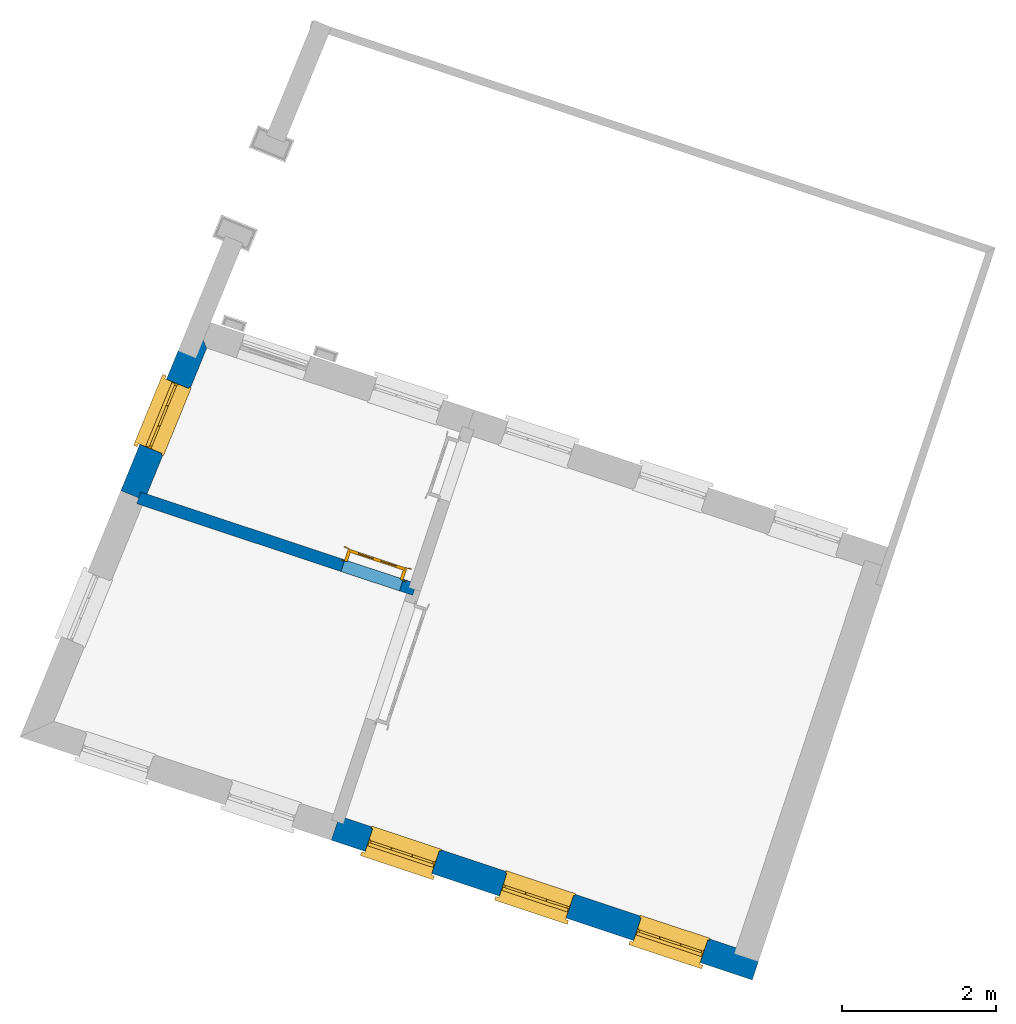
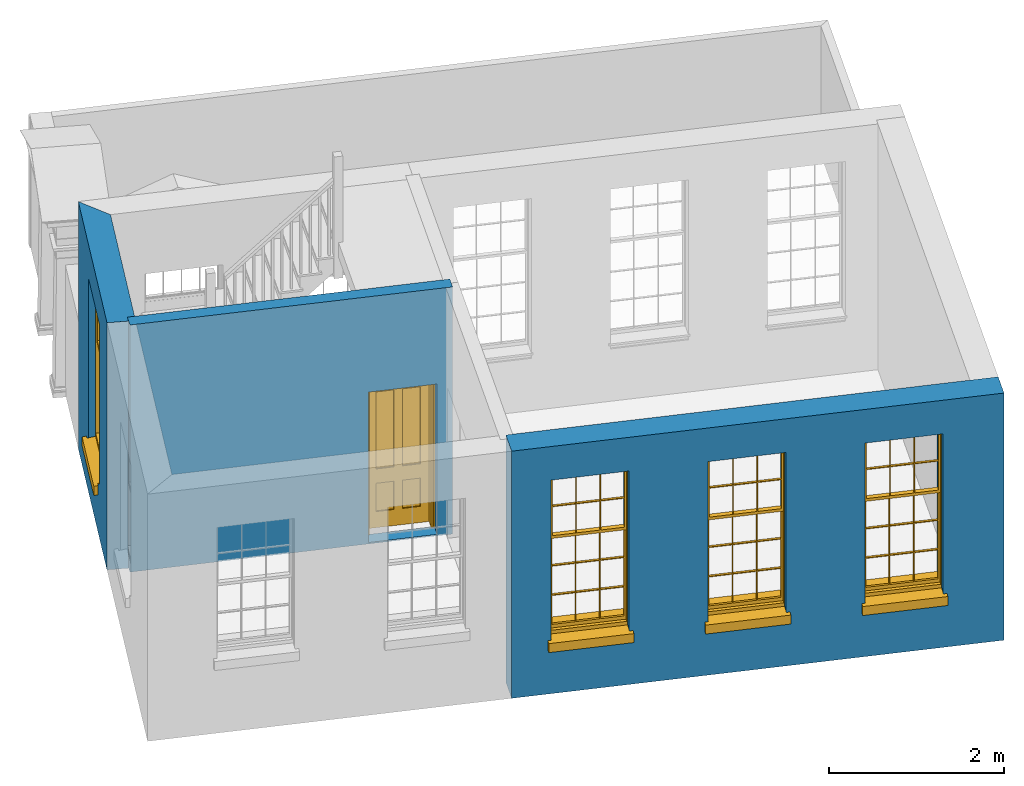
# One storey, part 3 of 6: 4 windows, 3 walls, 1 door, 5 openings.
"""IFC4 building model written with IfcOpenShell, lengths in metres."""

from ifc_helpers import new_model, si_unit, frame, origin, origin_with_axes, place, context, subcontext, project, spatial, polyline, outline, extrude, faceted_brep, source, transform, mapped, material, layer, layer_set, layer_usage, type_object, type_shapes, element, fill, save


model = new_model("IFC4")

# Units and contexts
model_context = context("Model", 3, world=origin_with_axes())
body_context = subcontext(model_context, "Body", "Model", "MODEL_VIEW")
ifc_project = project(units=[si_unit("PLANEANGLEUNIT", "RADIAN"), si_unit("MASSUNIT", "GRAM", prefix="KILO"), si_unit("FORCEUNIT", "NEWTON", prefix="KILO"), si_unit("LENGTHUNIT", "METRE"), si_unit("AREAUNIT", "SQUARE_METRE"), si_unit("VOLUMEUNIT", "CUBIC_METRE")], contexts=[model_context, model_context])

# Sites, building, storey
site_1_placement = place(None, origin_with_axes())
site_1 = spatial("IfcSite", under=ifc_project, at=site_1_placement, Name="Tamar")
site_2_placement = place(site_1_placement, origin_with_axes())
site_2 = spatial("IfcSite", under=site_1, at=site_2_placement, Name="Site plot-16", CompositionType="ELEMENT")
building_placement = place(None, origin_with_axes())
building = spatial("IfcBuilding", under=site_2, at=building_placement, Name="Building plot-16", CompositionType="ELEMENT")
storey_placement = place(None, frame((0.0, 0.0, 26.0), z_axis=(0.0, 0.0, 1.0), x_axis=(1.0, 0.0, 0.0)))
storey = spatial("IfcBuildingStorey", under=building, at=storey_placement, Name="plot-16 0", CompositionType="ELEMENT", Elevation=26.0)

# Wall, opening, window
ifc_material_1 = material(Name="Masonry")
ifc_layer_1 = layer(ifc_material_1, 0.33, ventilated=False)
ifc_layer_set_1 = layer_set([ifc_layer_1], Name="exterior_0.08_0.25")
ifc_layer_usage_1 = layer_usage(ifc_layer_set_1, "AXIS2", "POSITIVE", -0.25)
wall_type_1 = type_object("IfcWallType", Name="exterior_0.08_0.25", PredefinedType="SOLIDWALL", material=ifc_layer_set_1)
wall_1_placement = place(storey_placement, frame((254.578995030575, 299.695267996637, 0.0), z_axis=(0.0, 0.0, 1.0), x_axis=(-0.378975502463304, -0.925406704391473, 0.0)))
wall_1 = element("IfcWall", 1, at=wall_1_placement, inside=storey, type_object=wall_type_1, material=ifc_layer_usage_1, Name="exterior", context=body_context, shape_type="SweptSolid", body=[
    extrude(outline(polyline([(0.0747225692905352, 0.0799999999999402), (-0.233508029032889, -0.250000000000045), (2.20575970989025, -0.25), (2.20575970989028, 0.0800000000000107), (0.0747225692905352, 0.0799999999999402)])), origin_with_axes(), (0.0, 0.0, 1.0), 3.45),
])
opening_1_placement = place(wall_1_placement, frame((0.647879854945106, 0.0, 0.75)))
opening_1 = element("IfcOpeningElement", 2, at=opening_1_placement, cuts=wall_1, Name="My Opening", ObjectType="Opening", context=body_context, shape_type="SweptSolid", body=[
    extrude(outline(polyline([(0.0, -0.270000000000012), (0.91000000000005, -0.27000000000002), (0.910000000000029, 1.09999999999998), (-2.1538326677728e-14, 1.09999999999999), (0.0, -0.270000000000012)])), origin_with_axes(), (0.0, 0.0, 1.0), 2.23),
])
window_type = type_object("IfcWindowType", Name="sash_big_taller", PartitioningType="DOUBLE_PANEL_HORIZONTAL", PredefinedType="NOTDEFINED")
shared_shape_1 = source(origin(), body_context, "Body", "Brep", [
    faceted_brep([(0.033125, 0.145, 1.385209), (0.01, 0.145, 1.385209), (0.033125, 0.145, 1.786042), (0.876875, 0.145, 1.385209), (0.876875, 0.145, 1.786042), (0.9, 0.145, 1.385209), (0.876875, 0.145, 1.796042), (0.876875, 0.145, 2.196875), (0.9, 0.145, 2.22), (0.033125, 0.145, 2.196875), (0.033125, 0.145, 1.796042), (0.01, 0.145, 2.22), (0.876875, 0.115, 1.786042), (0.876875, 0.115, 1.385209), (0.9, 0.115, 1.347084), (0.033125, 0.115, 2.196875), (0.01, 0.115, 2.22), (0.033125, 0.115, 1.796042), (0.01, 0.115, 1.347084), (0.033125, 0.115, 1.385209), (0.033125, 0.115, 1.786042), (0.876875, 0.115, 2.196875), (0.876875, 0.115, 1.796042), (0.9, 0.115, 2.22), (0.033125, 0.145, 1.347084), (0.01, 0.145, 1.347084), (0.033125, 0.145, 0.94625), (0.876875, 0.145, 1.347084), (0.876875, 0.145, 0.94625), (0.9, 0.145, 1.347084), (0.876875, 0.145, 0.52625), (0.876875, 0.145, 0.125417), (0.9, 0.145, 0.077167), (0.033125, 0.145, 0.125417), (0.033125, 0.145, 0.52625), (0.01, 0.145, 0.077167), (-0.0425, 0.0, 0.01), (-0.0425, -0.05, 0.001667), (0.0, 0.0, 0.01), (0.9525, 0.0, 0.01), (0.91, 0.0, 0.01), (0.9525, -0.05, 0.001667), (-0.02, 0.33, 0.077167), (0.0, 0.33, 0.077167), (-0.02, 0.36, 0.077167), (0.0, 0.19, 0.077167), (0.01, 0.19, 0.077167), (0.91, 0.19, 0.077167), (0.91, 0.33, 0.077167), (0.9, 0.19, 0.077167), (0.93, 0.33, 0.077167), (0.93, 0.36, 0.077167), (0.01, 0.175, 1.385209), (0.9, 0.175, 1.385209), (0.876875, 0.175, 0.125417), (0.876875, 0.175, 0.52625), (0.9, 0.175, 0.077167), (0.876875, 0.175, 0.94625), (0.876875, 0.175, 1.347084), (0.033125, 0.175, 0.125417), (0.01, 0.175, 0.077167), (0.033125, 0.175, 0.52625), (0.033125, 0.175, 1.347084), (0.033125, 0.175, 0.94625), (-0.02, 0.33, 0.052167), (-0.02, 0.36, 0.052167), (0.93, 0.36, 0.052167), (0.93, 0.33, 0.052167), (0.91, 0.33, 0.052167), (0.0, 0.33, 0.052167), (0.91, 0.1, 0.026667), (0.0, 0.1, 0.026667), (-0.0425, -0.05, -0.123333), (0.9525, -0.05, -0.123333), (-0.0425, 0.0, -0.123333), (0.9525, 0.0, -0.123333), (0.01, 0.19, 2.22), (0.9, 0.19, 2.22), (0.0, 0.19, 2.23), (0.91, 0.19, 2.23), (0.01, 0.1, 0.077167), (0.9, 0.1, 0.077167), (0.592292, 0.145, 0.125417), (0.592292, 0.175, 0.125417), (0.317708, 0.175, 0.125417), (0.317708, 0.145, 0.125417), (0.592292, 0.145, 0.53625), (0.317708, 0.145, 0.53625), (0.317708, 0.145, 0.52625), (0.592292, 0.145, 0.52625), (0.592292, 0.175, 0.53625), (0.317708, 0.175, 0.53625), (0.592292, 0.115, 1.796042), (0.592292, 0.145, 1.796042), (0.317708, 0.145, 1.796042), (0.317708, 0.115, 1.796042), (0.317708, 0.115, 1.786042), (0.592292, 0.115, 1.786042), (0.317708, 0.145, 1.786042), (0.592292, 0.145, 1.786042), (0.602292, 0.115, 1.786042), (0.592292, 0.115, 1.385209), (0.602292, 0.115, 1.385209), (0.602292, 0.145, 1.385209), (0.592292, 0.145, 1.385209), (0.602292, 0.145, 1.786042), (0.876875, 0.145, 0.53625), (0.876875, 0.175, 0.53625), (0.602292, 0.175, 0.53625), (0.602292, 0.145, 0.53625), (0.317708, 0.175, 0.52625), (0.307708, 0.175, 0.125417), (0.307708, 0.175, 0.52625), (0.602292, 0.175, 0.52625), (0.602292, 0.175, 0.125417), (0.592292, 0.175, 0.52625), (0.307708, 0.175, 0.53625), (0.033125, 0.175, 0.53625), (0.317708, 0.175, 1.347084), (0.317708, 0.175, 0.94625), (0.307708, 0.175, 0.94625), (0.307708, 0.175, 1.347084), (0.602292, 0.175, 1.347084), (0.602292, 0.175, 0.94625), (0.592292, 0.175, 0.94625), (0.592292, 0.175, 1.347084), (0.307708, 0.145, 0.52625), (0.307708, 0.145, 0.125417), (0.307708, 0.145, 0.53625), (0.033125, 0.145, 0.53625), (0.307708, 0.145, 1.347084), (0.307708, 0.145, 0.94625), (0.592292, 0.145, 1.347084), (0.592292, 0.145, 0.94625), (0.317708, 0.145, 0.94625), (0.317708, 0.145, 1.347084), (0.602292, 0.145, 0.94625), (0.602292, 0.145, 1.347084), (0.602292, 0.145, 0.52625), (0.602292, 0.145, 0.125417), (0.307708, 0.115, 1.796042), (0.307708, 0.115, 1.786042), (0.307708, 0.115, 1.385209), (0.317708, 0.115, 1.385209), (0.317708, 0.115, 2.196875), (0.307708, 0.115, 2.196875), (0.602292, 0.115, 2.196875), (0.592292, 0.115, 2.196875), (0.602292, 0.115, 1.796042), (0.602292, 0.145, 1.796042), (0.307708, 0.145, 1.796042), (0.307708, 0.145, 2.196875), (0.317708, 0.145, 2.196875), (0.592292, 0.145, 2.196875), (0.602292, 0.145, 2.196875), (0.307708, 0.145, 1.786042), (0.317708, 0.145, 1.385209), (0.307708, 0.145, 1.385209), (0.876875, 0.175, 0.93625), (0.033125, 0.175, 0.93625), (0.033125, 0.145, 0.93625), (0.876875, 0.145, 0.93625), (0.91, 0.1, 2.23), (0.9, 0.1, 2.22), (0.01, 0.1, 2.22), (0.0, 0.1, 2.23), (0.91, 0.0, 0.0), (0.0, 0.0, 0.0), (0.91, 0.33, 0.0), (0.0, 0.33, 0.0), (0.317708, 0.145, 0.93625), (0.592292, 0.145, 0.93625), (0.317708, 0.175, 0.93625), (0.307708, 0.175, 0.93625), (0.602292, 0.175, 0.93625), (0.592292, 0.175, 0.93625), (0.307708, 0.145, 0.93625), (0.602292, 0.145, 0.93625)], [[[0, 1, 2]], [[3, 4, 5]], [[6, 7, 8]], [[9, 10, 11]], [[12, 13, 14]], [[15, 16, 17]], [[18, 19, 20]], [[21, 22, 23]], [[24, 25, 26]], [[27, 28, 29]], [[30, 31, 32]], [[33, 34, 35]], [[14, 27, 29]], [[25, 24, 18]], [[36, 37, 38]], [[39, 40, 41]], [[42, 43, 44]], [[45, 46, 43]], [[47, 48, 49]], [[50, 51, 48]], [[1, 0, 52]], [[5, 53, 3]], [[54, 55, 56]], [[57, 58, 53]], [[59, 60, 61]], [[62, 63, 52]], [[48, 43, 46, 49]], [[51, 44, 43, 48]], [[64, 42, 44, 65]], [[65, 44, 51, 66]], [[66, 51, 50, 67]], [[65, 66, 68, 69]], [[60, 56, 49, 46]], [[70, 71, 38, 40]], [[37, 41, 40, 38]], [[37, 72, 73, 41]], [[74, 75, 73, 72]], [[8, 11, 76, 77]], [[76, 78, 79, 77]], [[32, 35, 80, 81]], [[81, 80, 71, 70]], [[82, 83, 84, 85]], [[86, 87, 88, 89]], [[86, 90, 91, 87]], [[92, 93, 94, 95]], [[92, 95, 96, 97]], [[96, 98, 99, 97]], [[100, 97, 101, 102]], [[103, 104, 99, 105]], [[97, 99, 104, 101]], [[102, 103, 105, 100]], [[106, 107, 108, 109]], [[110, 84, 111, 112]], [[113, 114, 83, 115]], [[116, 112, 61, 117]], [[90, 115, 110, 91]], [[118, 119, 120, 121]], [[122, 123, 124, 125]], [[113, 108, 107, 55]], [[126, 112, 111, 127]], [[34, 61, 112, 126]], [[89, 115, 83, 82]], [[88, 110, 115, 89]], [[85, 84, 110, 88]], [[128, 116, 117, 129]], [[130, 121, 120, 131]], [[132, 125, 124, 133]], [[134, 119, 118, 135]], [[136, 123, 122, 137]], [[138, 113, 55, 30]], [[139, 114, 113, 138]], [[138, 30, 106, 109]], [[88, 126, 127, 85]], [[138, 89, 82, 139]], [[137, 132, 133, 136]], [[128, 129, 34, 126]], [[135, 130, 131, 134]], [[140, 17, 20, 141]], [[96, 141, 142, 143]], [[144, 145, 140, 95]], [[146, 147, 92, 148]], [[100, 12, 22, 148]], [[149, 6, 4, 105]], [[94, 150, 151, 152]], [[149, 93, 153, 154]], [[99, 98, 94, 93]], [[155, 2, 10, 150]], [[156, 157, 155, 98]], [[141, 155, 157, 142]], [[20, 2, 155, 141]], [[143, 156, 98, 96]], [[140, 150, 10, 17]], [[145, 151, 150, 140]], [[147, 153, 93, 92]], [[95, 94, 152, 144]], [[22, 6, 149, 148]], [[148, 149, 154, 146]], [[100, 105, 4, 12]], [[109, 86, 89, 138]], [[108, 113, 115, 90]], [[91, 110, 112, 116]], [[87, 128, 126, 88]], [[97, 100, 148, 92]], [[141, 96, 95, 140]], [[98, 155, 150, 94]], [[105, 99, 93, 149]], [[143, 101, 104, 156]], [[135, 118, 125, 132]], [[144, 152, 153, 147]], [[127, 111, 59, 33]], [[15, 9, 151, 145]], [[146, 154, 7, 21]], [[31, 54, 114, 139]], [[36, 74, 72, 37]], [[39, 41, 73, 75]], [[18, 14, 101, 143]], [[23, 16, 144, 147]], [[83, 56, 60, 84]], [[52, 53, 125, 118]], [[53, 52, 156, 104]], [[11, 8, 153, 152]], [[14, 18, 135, 132]], [[2, 1, 11, 10]], [[8, 5, 4, 6]], [[57, 53, 56, 158]], [[60, 52, 63, 159]], [[26, 25, 35, 160]], [[32, 29, 28, 161]], [[14, 23, 22, 12]], [[18, 20, 17, 16]], [[19, 0, 2, 20]], [[17, 10, 9, 15]], [[12, 4, 3, 13]], [[21, 7, 6, 22]], [[27, 58, 57, 28]], [[30, 55, 54, 31]], [[33, 59, 61, 34]], [[26, 63, 62, 24]], [[5, 8, 77, 53]], [[76, 11, 1, 52]], [[46, 45, 78, 76]], [[49, 77, 79, 47]], [[70, 162, 163, 81]], [[71, 80, 164, 165]], [[19, 142, 157, 0]], [[102, 13, 3, 103]], [[121, 130, 24, 62]], [[29, 32, 81, 14]], [[80, 35, 25, 18]], [[60, 46, 76, 52]], [[77, 49, 56, 53]], [[23, 14, 81, 163]], [[16, 164, 80, 18]], [[35, 85, 127]], [[127, 33, 35]], [[139, 82, 32]], [[32, 31, 139]], [[32, 82, 85, 35]], [[102, 101, 14]], [[14, 13, 102]], [[18, 143, 142]], [[142, 19, 18]], [[146, 21, 23]], [[23, 147, 146]], [[16, 15, 145]], [[145, 144, 16]], [[11, 152, 151]], [[151, 9, 11]], [[154, 153, 8]], [[8, 7, 154]], [[23, 163, 164, 16]], [[162, 165, 164, 163]], [[52, 118, 121]], [[121, 62, 52]], [[125, 53, 122]], [[58, 122, 53]], [[27, 137, 122, 58]], [[56, 83, 114]], [[114, 54, 56]], [[111, 84, 60]], [[60, 59, 111]], [[137, 27, 14]], [[14, 132, 137]], [[130, 135, 18]], [[18, 24, 130]], [[157, 156, 52]], [[52, 0, 157]], [[103, 3, 53]], [[53, 104, 103]], [[79, 78, 165, 162]], [[78, 45, 71, 165]], [[162, 70, 47, 79]], [[166, 75, 74, 167]], [[68, 66, 67]], [[48, 68, 67, 50]], [[69, 64, 65]], [[42, 64, 69, 43]], [[69, 68, 168, 169]], [[70, 68, 48, 47]], [[166, 168, 68, 70]], [[43, 69, 71, 45]], [[69, 169, 167, 71]], [[168, 166, 167, 169]], [[38, 167, 74, 36]], [[71, 167, 38]], [[39, 75, 166, 40]], [[40, 166, 70]], [[133, 134, 170, 171]], [[133, 124, 119, 134]], [[28, 57, 123, 136]], [[172, 91, 116, 173]], [[174, 108, 90, 175]], [[120, 173, 159, 63]], [[124, 175, 172, 119]], [[174, 123, 57, 158]], [[176, 173, 116, 128]], [[160, 159, 173, 176]], [[171, 175, 90, 86]], [[170, 172, 175, 171]], [[87, 91, 172, 170]], [[131, 120, 63, 26]], [[177, 174, 158, 161]], [[109, 108, 174, 177]], [[177, 161, 28, 136]], [[170, 176, 128, 87]], [[177, 171, 86, 109]], [[131, 26, 160, 176]], [[136, 133, 171, 177]], [[123, 174, 175, 124]], [[119, 172, 173, 120]], [[134, 131, 176, 170]], [[129, 117, 159, 160]], [[161, 158, 107, 106]], [[35, 34, 129]], [[35, 129, 160]], [[32, 106, 30]], [[32, 161, 106]], [[56, 55, 107]], [[56, 107, 158]], [[60, 117, 61]], [[60, 159, 117]]]),
])
type_shapes(window_type, [shared_shape_1])
window_1_placement = place(storey_placement, frame((254.083604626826, 299.198039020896, 0.75), z_axis=(0.0, 0.0, 1.0), x_axis=(-0.344867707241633, -0.842120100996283, 0.0)))
window_1 = element("IfcWindow", 3, at=window_1_placement, inside=storey, type_object=window_type, Name="circulation street window", OverallHeight=2.23, OverallWidth=0.91, context=body_context, shape_type="MappedRepresentation", body=[
    mapped(shared_shape_1, transform((0.0, 0.0, 0.0), scale=1.0)),
])
fill(opening_1, window_1)

# Wall, openings, windows
wall_2_placement = place(storey_placement, frame((256.317731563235, 293.45462049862, 0.0), z_axis=(0.0, 0.0, 1.0), x_axis=(0.949078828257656, -0.31503869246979, 0.0)))
wall_2 = element("IfcWall", 4, at=wall_2_placement, inside=storey, type_object=wall_type_1, material=ifc_layer_usage_1, Name="exterior", context=body_context, shape_type="SweptSolid", body=[
    extrude(outline(polyline([(-2.41890815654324e-14, 0.0799999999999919), (2.39348930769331e-14, -0.249999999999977), (5.74899441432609, -0.250000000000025), (5.74899441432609, 0.0799999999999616), (-2.41890815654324e-14, 0.0799999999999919)])), origin_with_axes(), (0.0, 0.0, 1.0), 3.45),
])
opening_2_placement = place(wall_2_placement, frame((0.461499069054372, 0.0, 0.75)))
opening_2 = element("IfcOpeningElement", 5, at=opening_2_placement, cuts=wall_2, Name="My Opening", ObjectType="Opening", context=body_context, shape_type="SweptSolid", body=[
    extrude(outline(polyline([(0.0, -0.270000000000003), (0.909999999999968, -0.270000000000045), (0.909999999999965, 1.1), (-2.77555756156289e-15, 1.10000000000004), (0.0, -0.270000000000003)])), origin_with_axes(), (0.0, 0.0, 1.0), 2.23),
])
opening_3_placement = place(wall_2_placement, frame((2.29449720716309, 0.0, 0.75)))
opening_3 = element("IfcOpeningElement", 6, at=opening_3_placement, cuts=wall_2, Name="My Opening", ObjectType="Opening", context=body_context, shape_type="SweptSolid", body=[
    extrude(outline(polyline([(0.0, -0.270000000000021), (0.90999999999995, -0.270000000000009), (0.909999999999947, 1.10000000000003), (-2.66453525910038e-15, 1.10000000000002), (0.0, -0.270000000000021)])), origin_with_axes(), (0.0, 0.0, 1.0), 2.23),
])
opening_4_placement = place(wall_2_placement, frame((4.12749534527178, 0.0, 0.75)))
opening_4 = element("IfcOpeningElement", 7, at=opening_4_placement, cuts=wall_2, Name="My Opening", ObjectType="Opening", context=body_context, shape_type="SweptSolid", body=[
    extrude(outline(polyline([(0.0, -0.269999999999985), (0.909999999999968, -0.270000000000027), (0.909999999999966, 1.10000000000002), (-2.66453525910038e-15, 1.10000000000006), (0.0, -0.269999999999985)])), origin_with_axes(), (0.0, 0.0, 1.0), 2.23),
])
window_2_placement = place(storey_placement, frame((256.670670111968, 293.0529791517, 0.75), z_axis=(0.0, 0.0, 1.0), x_axis=(0.863661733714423, -0.286685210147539, 0.0)))
window_2 = element("IfcWindow", 8, at=window_2_placement, inside=storey, type_object=window_type, Name="living street window", OverallHeight=2.23, OverallWidth=0.91, context=body_context, shape_type="MappedRepresentation", body=[
    mapped(shared_shape_1, transform((0.0, 0.0, 0.0), scale=1.0)),
])
fill(opening_2, window_2)
window_3_placement = place(storey_placement, frame((258.410329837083, 292.47551381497, 0.75), z_axis=(0.0, 0.0, 1.0), x_axis=(0.863661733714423, -0.286685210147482, 0.0)))
window_3 = element("IfcWindow", 9, at=window_3_placement, inside=storey, type_object=window_type, Name="living street window", OverallHeight=2.23, OverallWidth=0.91, context=body_context, shape_type="MappedRepresentation", body=[
    mapped(shared_shape_1, transform((0.0, 0.0, 0.0), scale=1.0)),
])
fill(opening_3, window_3)
window_4_placement = place(storey_placement, frame((260.149989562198, 291.898048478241, 0.75), z_axis=(0.0, 0.0, 1.0), x_axis=(0.863661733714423, -0.286685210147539, 0.0)))
window_4 = element("IfcWindow", 10, at=window_4_placement, inside=storey, type_object=window_type, Name="living street window", OverallHeight=2.23, OverallWidth=0.91, context=body_context, shape_type="MappedRepresentation", body=[
    mapped(shared_shape_1, transform((0.0, 0.0, 0.0), scale=1.0)),
])
fill(opening_4, window_4)

# Wall, opening, door
ifc_material_2 = material(Name="Masonry")
ifc_layer_2 = layer(ifc_material_2, 0.16, ventilated=False)
ifc_layer_set_2 = layer_set([ifc_layer_2], Name="interior_0.08_0.08")
ifc_layer_usage_2 = layer_usage(ifc_layer_set_2, "AXIS2", "POSITIVE", -0.08)
wall_type_2 = type_object("IfcWallType", Name="interior_0.08_0.08", PredefinedType="SOLIDWALL", material=ifc_layer_set_2)
wall_3_placement = place(storey_placement, frame((253.743066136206, 297.654043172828, 0.0), z_axis=(0.0, 0.0, 1.0), x_axis=(0.949078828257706, -0.31503869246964, 0.0)))
wall_3 = element("IfcWall", 11, at=wall_3_placement, inside=storey, type_object=wall_type_2, material=ifc_layer_usage_2, Name="interior", context=body_context, shape_type="SweptSolid", body=[
    extrude(outline(polyline([(-1.15414208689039e-14, 0.0799999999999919), (1.15671508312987e-14, -0.0799999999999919), (3.76654107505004, -0.079999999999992), (3.76654107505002, 0.0799999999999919), (-1.15414208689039e-14, 0.0799999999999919)])), origin_with_axes(), (0.0, 0.0, 1.0), 3.45),
])
opening_5_placement = place(wall_3_placement, frame((2.78654107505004, 0.0, 0.0199999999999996)))
opening_5 = element("IfcOpeningElement", 12, at=opening_5_placement, cuts=wall_3, Name="My Opening", ObjectType="Opening", context=body_context, shape_type="SweptSolid", body=[
    extrude(outline(polyline([(0.0, -0.100000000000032), (0.799999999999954, -0.100000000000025), (0.799999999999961, 1.10000000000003), (7.105427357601e-15, 1.10000000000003), (0.0, -0.100000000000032)])), origin_with_axes(), (0.0, 0.0, 1.0), 2.1),
])
door_type = type_object("IfcDoorType", Name="door_inside", OperationType="SINGLE_SWING_LEFT", PredefinedType="NOTDEFINED")
shared_shape_2 = source(origin(), body_context, "Body", "Brep", [
    faceted_brep([(0.773, 0.33, 1.895), (0.66, 0.33, 1.895), (0.66, 0.33, 2.073), (0.773, 0.33, 2.073), (0.773, 0.33, 0.82), (0.66, 0.33, 0.82), (0.45, 0.33, 1.895), (0.45, 0.33, 2.073), (0.773, 0.33, 0.62), (0.66, 0.33, 0.62), (0.66, 0.315, 0.82), (0.66, 0.315, 1.895), (0.45, 0.315, 1.895), (0.35, 0.33, 1.895), (0.35, 0.33, 2.073), (0.773, 0.33, 0.225), (0.66, 0.33, 0.225), (0.45, 0.33, 0.62), (0.45, 0.33, 0.82), (0.45, 0.315, 0.82), (0.35, 0.33, 0.82), (0.14, 0.33, 2.073), (0.14, 0.33, 1.895), (0.773, 0.33, 0.0), (0.66, 0.33, 0.0), (0.66, 0.315, 0.225), (0.66, 0.315, 0.62), (0.45, 0.315, 0.62), (0.35, 0.33, 0.62), (0.35, 0.315, 0.82), (0.35, 0.315, 1.895), (0.14, 0.315, 1.895), (0.027, 0.33, 2.073), (0.027, 0.33, 1.895), (0.773, 0.292, 0.0), (0.66, 0.292, 0.0), (0.45, 0.33, 0.0), (0.45, 0.33, 0.225), (0.45, 0.315, 0.225), (0.35, 0.33, 0.225), (0.14, 0.33, 0.82), (0.14, 0.33, 0.62), (0.14, 0.315, 0.82), (0.027, 0.33, 0.82), (0.773, 0.292, 0.225), (0.66, 0.292, 0.225), (0.45, 0.292, 0.0), (0.35, 0.33, 0.0), (0.35, 0.315, 0.225), (0.35, 0.315, 0.62), (0.14, 0.315, 0.62), (0.027, 0.33, 0.62), (0.773, 0.292, 0.62), (0.66, 0.292, 0.62), (0.45, 0.292, 0.225), (0.35, 0.292, 0.0), (0.14, 0.33, 0.225), (0.14, 0.33, 0.0), (0.14, 0.315, 0.225), (0.027, 0.33, 0.225), (0.773, 0.292, 0.82), (0.66, 0.292, 0.82), (0.66, 0.307, 0.62), (0.66, 0.307, 0.225), (0.45, 0.307, 0.225), (0.35, 0.292, 0.225), (0.14, 0.292, 0.0), (0.027, 0.33, 0.0), (0.773, 0.292, 1.895), (0.66, 0.292, 1.895), (0.45, 0.292, 0.62), (0.45, 0.292, 0.82), (0.45, 0.307, 0.62), (0.35, 0.292, 0.62), (0.14, 0.292, 0.225), (0.027, 0.292, 0.0), (0.773, 0.292, 2.073), (0.66, 0.292, 2.073), (0.66, 0.307, 1.895), (0.66, 0.307, 0.82), (0.45, 0.307, 0.82), (0.35, 0.292, 0.82), (0.35, 0.307, 0.62), (0.35, 0.307, 0.225), (0.14, 0.307, 0.225), (0.027, 0.292, 0.225), (0.45, 0.292, 1.895), (0.45, 0.292, 2.073), (0.45, 0.307, 1.895), (0.35, 0.292, 1.895), (0.14, 0.292, 0.82), (0.14, 0.292, 0.62), (0.14, 0.307, 0.62), (0.027, 0.292, 0.62), (0.35, 0.292, 2.073), (0.35, 0.307, 1.895), (0.35, 0.307, 0.82), (0.14, 0.307, 0.82), (0.027, 0.292, 0.82), (0.14, 0.292, 2.073), (0.14, 0.292, 1.895), (0.14, 0.307, 1.895), (0.027, 0.292, 1.895), (0.027, 0.292, 2.073), (0.02, 0.335, 0.0), (0.005, 0.34, 0.0), (0.005, 0.34, 2.095), (0.02, 0.335, 2.08), (0.02, 0.33, 0.0), (0.0, 0.335, 0.0), (0.0, 0.335, 2.1), (0.795, 0.34, 2.095), (0.78, 0.335, 2.08), (0.02, 0.33, 2.08), (0.0, 0.33, 0.0), (-0.032, 0.345, 0.0), (-0.032, 0.345, 2.132), (0.8, 0.335, 2.1), (0.795, 0.34, 0.0), (0.78, 0.335, 0.0), (0.78, 0.33, 2.08), (0.04, 0.29, 0.0), (0.025, 0.29, 0.0), (0.025, 0.29, 2.075), (0.04, 0.29, 2.06), (-0.04, 0.34, 0.0), (-0.04, 0.34, 2.14), (0.832, 0.345, 2.132), (0.8, 0.335, 0.0), (0.78, 0.33, 0.0), (0.8, 0.33, 0.0), (0.86, 0.33, 0.0), (0.86, 0.33, 2.16), (0.8, 0.33, 2.1), (-0.06, 0.33, 2.16), (0.0, 0.33, 2.1), (-0.06, 0.33, 0.0), (-0.04, 0.345, 0.0), (-0.04, 0.345, 2.14), (0.84, 0.34, 2.14), (0.832, 0.345, 0.0), (0.84, 0.34, 0.0), (0.86, 0.345, 0.0), (0.86, 0.345, 2.16), (-0.06, 0.345, 2.16), (-0.06, 0.345, 0.0), (0.84, 0.345, 0.0), (0.84, 0.345, 2.14), (-0.025, 0.155, 0.0), (-0.025, 0.16, 0.0), (-0.025, 0.16, 2.125), (-0.025, 0.155, 2.125), (-0.017, 0.155, 0.0), (-0.017, 0.155, 2.117), (0.825, 0.16, 2.125), (0.825, 0.155, 2.125), (0.825, 0.155, 0.0), (0.845, 0.155, 0.0), (-0.045, 0.155, 2.145), (-0.045, 0.155, 0.0), (0.845, 0.155, 2.145), (0.015, 0.165, 0.0), (0.015, 0.165, 2.085), (0.817, 0.155, 2.117), (0.825, 0.16, 0.0), (0.845, 0.17, 0.0), (0.845, 0.17, 2.145), (-0.045, 0.17, 2.145), (-0.045, 0.17, 0.0), (0.02, 0.16, 0.0), (0.02, 0.16, 2.08), (0.785, 0.165, 2.085), (0.817, 0.155, 0.0), (0.8, 0.17, 0.0), (0.8, 0.17, 2.1), (0.0, 0.17, 2.1), (0.0, 0.17, 0.0), (0.035, 0.165, 0.0), (0.035, 0.165, 2.065), (0.78, 0.16, 2.08), (0.785, 0.165, 0.0), (0.775, 0.29, 2.075), (0.76, 0.29, 2.06), (0.035, 0.17, 2.065), (0.035, 0.17, 0.0), (0.765, 0.165, 2.065), (0.78, 0.16, 0.0), (0.765, 0.17, 0.0), (0.765, 0.17, 2.065), (0.765, 0.165, 0.0), (0.04, 0.17, 2.06), (0.04, 0.17, 0.0), (0.76, 0.17, 2.06), (0.76, 0.17, 0.0), (0.76, 0.29, 0.0), (0.775, 0.29, 0.0), (0.025, 0.33, 0.0), (0.025, 0.33, 2.075), (0.775, 0.33, 0.0), (0.775, 0.33, 2.075)], [[[0, 1, 2, 3]], [[1, 0, 4, 5]], [[1, 6, 7, 2]], [[8, 9, 5, 4]], [[1, 5, 10, 11]], [[6, 1, 11, 12]], [[6, 13, 14, 7]], [[15, 16, 9, 8]], [[9, 17, 18, 5]], [[5, 18, 19, 10]], [[10, 19, 12, 11]], [[18, 6, 12, 19]], [[18, 20, 13, 6]], [[21, 14, 13, 22]], [[23, 24, 16, 15]], [[9, 16, 25, 26]], [[17, 9, 26, 27]], [[17, 28, 20, 18]], [[13, 20, 29, 30]], [[22, 13, 30, 31]], [[32, 21, 22, 33]], [[34, 35, 24, 23]], [[24, 36, 37, 16]], [[16, 37, 38, 25]], [[25, 38, 27, 26]], [[37, 17, 27, 38]], [[37, 39, 28, 17]], [[40, 20, 28, 41]], [[20, 40, 42, 29]], [[31, 30, 29, 42]], [[40, 22, 31, 42]], [[33, 22, 40, 43]], [[35, 34, 44, 45]], [[35, 46, 36, 24]], [[36, 47, 39, 37]], [[28, 39, 48, 49]], [[41, 28, 49, 50]], [[43, 40, 41, 51]], [[45, 44, 52, 53]], [[46, 35, 45, 54]], [[46, 55, 47, 36]], [[56, 39, 47, 57]], [[39, 56, 58, 48]], [[50, 49, 48, 58]], [[56, 41, 50, 58]], [[51, 41, 56, 59]], [[53, 52, 60, 61]], [[45, 53, 62, 63]], [[54, 45, 63, 64]], [[55, 46, 54, 65]], [[55, 66, 57, 47]], [[59, 56, 57, 67]], [[61, 60, 68, 69]], [[70, 53, 61, 71]], [[53, 70, 72, 62]], [[72, 64, 63, 62]], [[70, 54, 64, 72]], [[65, 54, 70, 73]], [[65, 74, 66, 55]], [[67, 57, 66, 75]], [[69, 68, 76, 77]], [[61, 69, 78, 79]], [[71, 61, 79, 80]], [[73, 70, 71, 81]], [[65, 73, 82, 83]], [[74, 65, 83, 84]], [[74, 85, 75, 66]], [[86, 69, 77, 87]], [[69, 86, 88, 78]], [[88, 80, 79, 78]], [[86, 71, 80, 88]], [[81, 71, 86, 89]], [[73, 81, 90, 91]], [[73, 91, 92, 82]], [[83, 82, 92, 84]], [[91, 74, 84, 92]], [[91, 93, 85, 74]], [[89, 86, 87, 94]], [[81, 89, 95, 96]], [[90, 81, 96, 97]], [[90, 98, 93, 91]], [[94, 99, 100, 89]], [[89, 100, 101, 95]], [[101, 97, 96, 95]], [[100, 90, 97, 101]], [[100, 102, 98, 90]], [[99, 103, 102, 100]], [[32, 103, 99, 21]], [[102, 103, 32, 33]], [[98, 102, 33, 43]], [[21, 99, 94, 14]], [[94, 87, 7, 14]], [[7, 87, 77, 2]], [[76, 3, 2, 77]], [[43, 51, 93, 98]], [[51, 59, 85, 93]], [[67, 75, 85, 59]], [[34, 23, 15, 44]], [[44, 15, 8, 52]], [[52, 8, 4, 60]], [[0, 68, 60, 4]], [[0, 3, 76, 68]], [[104, 105, 106, 107]], [[104, 108, 109, 105]], [[105, 109, 110, 106]], [[107, 106, 111, 112]], [[107, 113, 108, 104]], [[114, 109, 108]], [[109, 115, 116, 110]], [[106, 110, 117, 111]], [[112, 111, 118, 119]], [[113, 107, 112, 120]], [[121, 122, 123, 124]], [[115, 109, 114, 125]], [[115, 125, 126, 116]], [[110, 116, 127, 117]], [[111, 117, 128, 118]], [[118, 128, 129, 119]], [[120, 112, 119, 129]], [[130, 129, 128]], [[130, 131, 132, 133]], [[133, 132, 134, 135]], [[135, 134, 136, 114]], [[136, 125, 114]], [[125, 137, 138, 126]], [[116, 126, 139, 127]], [[117, 127, 140, 128]], [[141, 130, 128, 140]], [[131, 130, 141]], [[131, 142, 143, 132]], [[132, 143, 144, 134]], [[134, 144, 145, 136]], [[137, 125, 136, 145]], [[143, 142, 146]], [[143, 146, 147]], [[137, 145, 144]], [[143, 147, 138]], [[138, 137, 144]], [[143, 138, 144]], [[126, 138, 147, 139]], [[127, 139, 141, 140]], [[142, 131, 141, 146]], [[139, 147, 146, 141]], [[148, 149, 150, 151]], [[149, 152, 153, 150]], [[151, 150, 154, 155]], [[155, 156, 157]], [[158, 159, 148]], [[158, 148, 151]], [[155, 157, 160]], [[158, 151, 155]], [[155, 160, 158]], [[152, 161, 162, 153]], [[150, 153, 163, 154]], [[155, 154, 164, 156]], [[156, 164, 165, 157]], [[157, 165, 166, 160]], [[160, 166, 167, 158]], [[158, 167, 168, 159]], [[161, 169, 170, 162]], [[153, 162, 171, 163]], [[154, 163, 172, 164]], [[165, 164, 173]], [[165, 173, 174, 166]], [[166, 174, 175, 167]], [[167, 175, 176, 168]], [[169, 177, 178, 170]], [[162, 170, 179, 171]], [[163, 171, 180, 172]], [[172, 180, 173, 164]], [[124, 123, 181, 182]], [[183, 178, 177, 184]], [[170, 178, 185, 179]], [[171, 179, 186, 180]], [[187, 173, 180]], [[185, 188, 187, 189]], [[188, 185, 178, 183]], [[179, 185, 189, 186]], [[189, 187, 180, 186]], [[190, 183, 184, 191]], [[192, 188, 183, 190]], [[191, 184, 122, 121]], [[124, 190, 191, 121]], [[193, 187, 188, 192]], [[182, 192, 190, 124]], [[184, 176, 122]], [[194, 195, 187, 193]], [[192, 182, 194, 193]], [[161, 176, 184]], [[114, 108, 122, 176]], [[173, 187, 195]], [[152, 149, 176, 161]], [[169, 161, 184, 177]], [[196, 122, 108]], [[176, 175, 135, 114]], [[173, 195, 129, 130]], [[176, 149, 168]], [[123, 122, 196, 197]], [[196, 108, 113, 197]], [[175, 174, 133, 135]], [[198, 129, 195]], [[133, 174, 173, 130]], [[159, 168, 149, 148]], [[181, 123, 197, 199]], [[197, 113, 120, 199]], [[199, 120, 129, 198]], [[195, 181, 199, 198]], [[195, 194, 182, 181]]]),
])
type_shapes(door_type, [shared_shape_2])
door_placement = place(storey_placement, frame((256.356209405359, 296.681267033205, 0.0199999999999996), z_axis=(0.0, 0.0, 1.0), x_axis=(0.759263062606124, -0.252030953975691, 0.0)))
door = element("IfcDoor", 13, at=door_placement, inside=storey, type_object=door_type, Name="kitchen inside door", OverallHeight=2.1, OverallWidth=0.8, context=body_context, shape_type="MappedRepresentation", body=[
    mapped(shared_shape_2, transform((0.0, 0.0, 0.0), scale=1.0)),
])
fill(opening_5, door)

save(model, "model.ifc")
